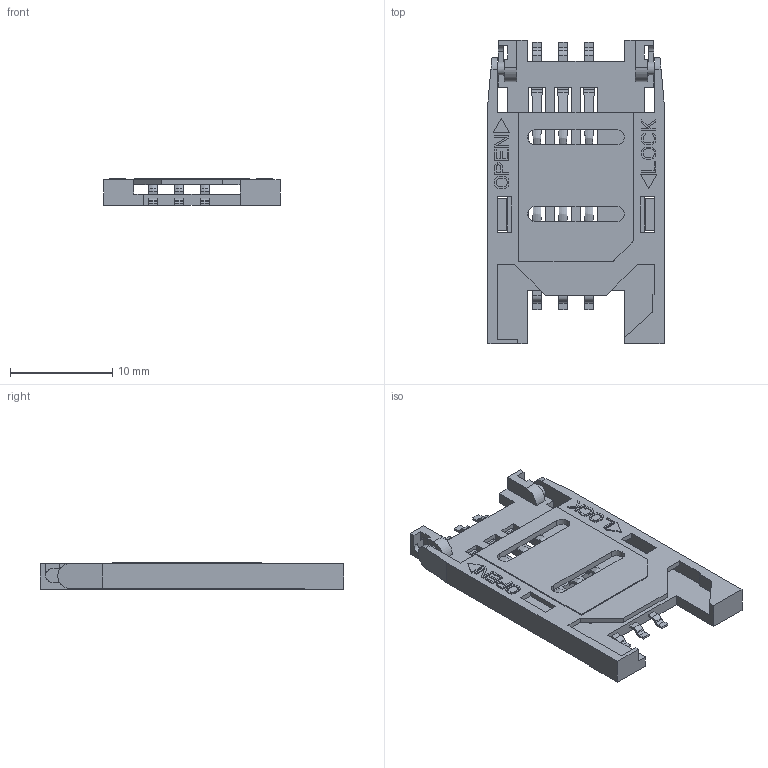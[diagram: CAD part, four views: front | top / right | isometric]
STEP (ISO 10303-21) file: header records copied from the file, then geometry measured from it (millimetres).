
FILE_DESCRIPTION(('STEP AP242'), '1');
FILE_NAME('c713_3d', '2019-05-09T13:48:49', (''), (''), 'ASCON STEP Converter 1.6', 'ASCON Math Kernel', '');
FILE_SCHEMA(('AP242_MANAGED_MODEL_BASED_3D_ENGINEERING_MIM_LF { 1 0 10303 442 1 1 4 }'));
Length unit declared in the file: millimetre
Products named in the file (1): SN-M317
Bounding box: 17.2 x 29.65 x 2.6 mm (x, y, z)
Volume: 595.8 mm3; surface area: 1811.6 mm2
Topology: 1 solids, 1 shells, 555 faces, 1527 edges, 985 vertices
Faces by surface type: plane 425, cylinder 70, bspline 48, extrusion 12
Full cylindrical faces by diameter (mm): 1.26 x2
Entity records: 25437 total; most frequent: CARTESIAN_POINT 7171, ORIENTED_EDGE 3050, DIRECTION 2484, EDGE_CURVE 1525, VECTOR 1270, LINE 1258, VERTEX_POINT 985, EDGE_LOOP 610
